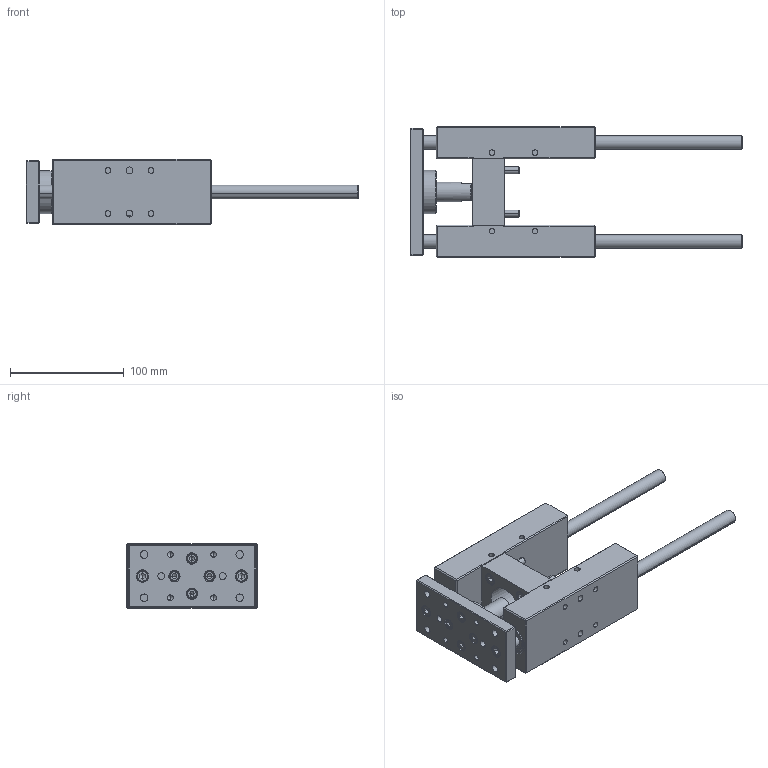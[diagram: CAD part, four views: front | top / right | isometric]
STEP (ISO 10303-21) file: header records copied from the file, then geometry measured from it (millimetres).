
FILE_DESCRIPTION (( 'STEP AP214' ), '1' );
FILE_NAME ('27_020_0.STEP', '2017-02-24T15:20:06', ( '' ), ( '' ), 'SwSTEP 2.0', 'SolidWorks 2016', '' );
FILE_SCHEMA (( 'AUTOMOTIVE_DESIGN' ));
Length unit declared in the file: millimetre
Products named in the file (1): 27_020_0
Bounding box: 292 x 115 x 58 mm (x, y, z)
Volume: 667810.8 mm3; surface area: 129539.5 mm2
Topology: 16 solids, 20 shells, 620 faces, 1414 edges, 886 vertices
Faces by surface type: plane 258, cylinder 229, cone 97, bspline 36
Entity records: 25721 total; most frequent: CARTESIAN_POINT 4631, DIRECTION 3032, ORIENTED_EDGE 2788, EDGE_CURVE 1394, AXIS2_PLACEMENT_3D 1181, VERTEX_POINT 886, EDGE_LOOP 752, LINE 670
